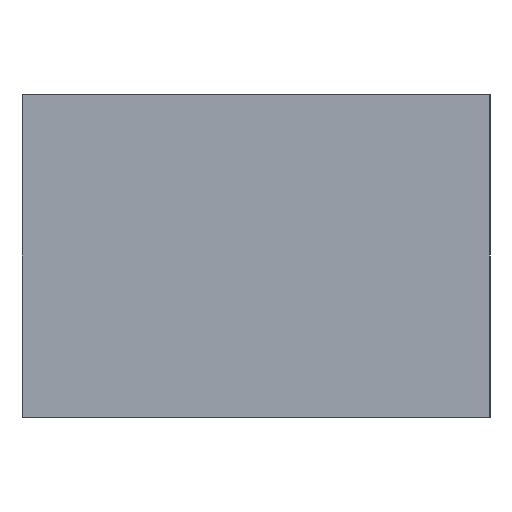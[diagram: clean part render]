
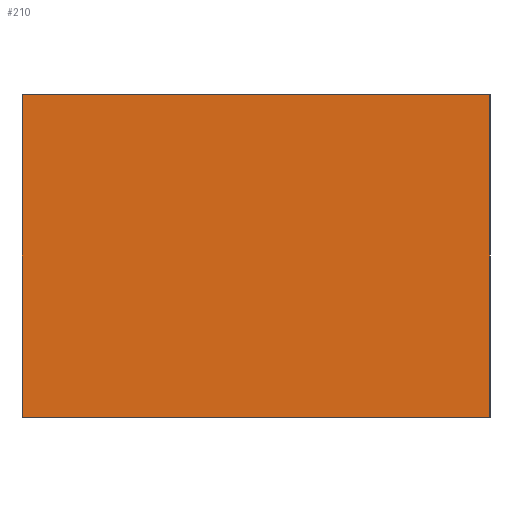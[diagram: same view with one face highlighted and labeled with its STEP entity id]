
A CAD part, left-side view. The second image highlights one B-rep face of the part: STEP entity #210.
In plain terms, the highlighted planar face has unit normal (-1, 0, 0).
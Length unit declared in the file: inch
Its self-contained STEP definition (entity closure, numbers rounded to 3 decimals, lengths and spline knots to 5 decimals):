
#3 = LINE ( 'NONE', #132, #7 ) ;
#6 = LINE ( 'NONE', #68, #25 ) ;
#7 = VECTOR ( 'NONE', #129, 39.37008 ) ;
#17 = VERTEX_POINT ( 'NONE', #55 ) ;
#18 = VERTEX_POINT ( 'NONE', #81 ) ;
#19 = LINE ( 'NONE', #63, #37 ) ;
#20 = VECTOR ( 'NONE', #72, 39.37008 ) ;
#23 = VERTEX_POINT ( 'NONE', #69 ) ;
#25 = VECTOR ( 'NONE', #52, 39.37008 ) ;
#31 = LINE ( 'NONE', #59, #20 ) ;
#36 = VERTEX_POINT ( 'NONE', #77 ) ;
#37 = VECTOR ( 'NONE', #53, 39.37008 ) ;
#43 = FACE_OUTER_BOUND ( 'NONE', #145, .T. ) ;
#52 = DIRECTION ( 'NONE',  ( 0., 0., -1. ) ) ;
#53 = DIRECTION ( 'NONE',  ( 0., 0., -1. ) ) ;
#55 = CARTESIAN_POINT ( 'NONE',  ( 0., 0., 0.345 ) ) ;
#59 = CARTESIAN_POINT ( 'NONE',  ( 0., 0., 0. ) ) ;
#63 = CARTESIAN_POINT ( 'NONE',  ( 0., 0.5, 0.345 ) ) ;
#68 = CARTESIAN_POINT ( 'NONE',  ( 0., 0., 0.345 ) ) ;
#69 = CARTESIAN_POINT ( 'NONE',  ( 0., 0., 0. ) ) ;
#72 = DIRECTION ( 'NONE',  ( 0., -1., 0. ) ) ;
#77 = CARTESIAN_POINT ( 'NONE',  ( 0., 0.5, 0.345 ) ) ;
#81 = CARTESIAN_POINT ( 'NONE',  ( 0., 0.5, 0. ) ) ;
#97 = PLANE ( 'NONE',  #175 ) ;
#109 = CARTESIAN_POINT ( 'NONE',  ( 0., 0., 0.345 ) ) ;
#120 = DIRECTION ( 'NONE',  ( 0., 0., -1. ) ) ;
#121 = DIRECTION ( 'NONE',  ( 1., 0., 0. ) ) ;
#129 = DIRECTION ( 'NONE',  ( 0., -1., 0. ) ) ;
#132 = CARTESIAN_POINT ( 'NONE',  ( 0., 0., 0.345 ) ) ;
#145 = EDGE_LOOP ( 'NONE', ( #169, #150, #167, #159 ) ) ;
#150 = ORIENTED_EDGE ( 'NONE', *, *, #172, .F. ) ;
#159 = ORIENTED_EDGE ( 'NONE', *, *, #177, .T. ) ;
#167 = ORIENTED_EDGE ( 'NONE', *, *, #202, .F. ) ;
#169 = ORIENTED_EDGE ( 'NONE', *, *, #183, .T. ) ;
#172 = EDGE_CURVE ( 'NONE', #17, #23, #6, .T. ) ;
#175 = AXIS2_PLACEMENT_3D ( 'NONE', #109, #121, #120 ) ;
#177 = EDGE_CURVE ( 'NONE', #36, #18, #19, .T. ) ;
#183 = EDGE_CURVE ( 'NONE', #18, #23, #31, .T. ) ;
#202 = EDGE_CURVE ( 'NONE', #36, #17, #3, .T. ) ;
#210 = ADVANCED_FACE ( 'NONE', ( #43 ), #97, .F. ) ;
